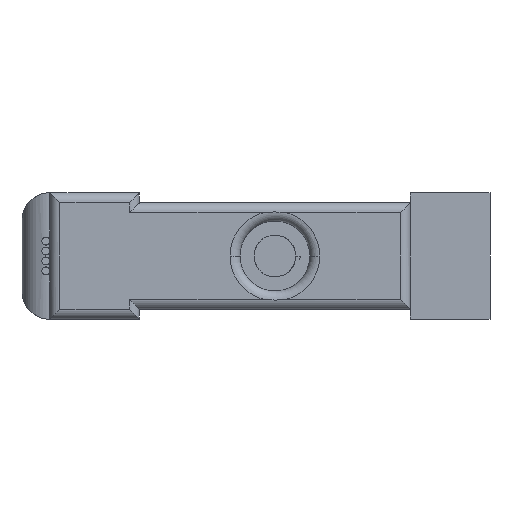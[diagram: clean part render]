
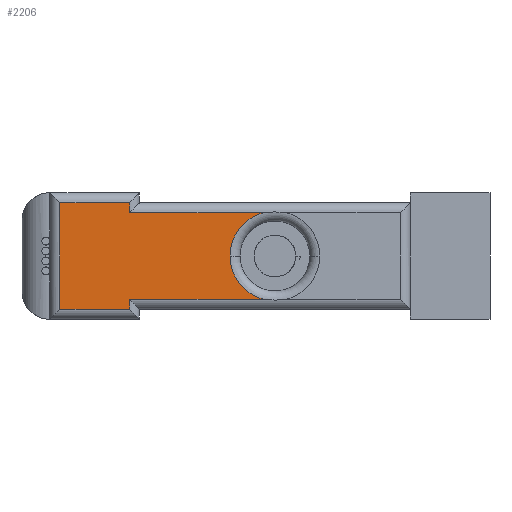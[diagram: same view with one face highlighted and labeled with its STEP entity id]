
A CAD part, front view. The second image highlights one B-rep face of the part: STEP entity #2206.
In plain terms, the highlighted planar face has unit normal (0, -1, 0).
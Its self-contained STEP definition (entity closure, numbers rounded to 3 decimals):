
#141 = CIRCLE ( 'NONE', #514, 4.5 ) ;
#161 = CARTESIAN_POINT ( 'NONE',  ( -21.6, -17.15, 0. ) ) ;
#179 = LINE ( 'NONE', #1959, #3230 ) ;
#213 = CARTESIAN_POINT ( 'NONE',  ( -14.6, -17.15, 5.35 ) ) ;
#296 = VERTEX_POINT ( 'NONE', #4025 ) ;
#437 = CARTESIAN_POINT ( 'NONE',  ( -0.5, -17.15, 4.35 ) ) ;
#498 = VECTOR ( 'NONE', #2889, 1000. ) ;
#509 = ORIENTED_EDGE ( 'NONE', *, *, #2900, .T. ) ;
#514 = AXIS2_PLACEMENT_3D ( 'NONE', #3185, #3157, #4939 ) ;
#517 = LINE ( 'NONE', #161, #4984 ) ;
#543 = CARTESIAN_POINT ( 'NONE',  ( -14.6, -17.15, -4.35 ) ) ;
#737 = LINE ( 'NONE', #1510, #4704 ) ;
#912 = CARTESIAN_POINT ( 'NONE',  ( -0.5, -17.15, 0. ) ) ;
#937 = EDGE_LOOP ( 'NONE', ( #4380, #1780, #509, #5056, #1881, #4307, #3310, #4690, #2119 ) ) ;
#995 = EDGE_CURVE ( 'NONE', #1017, #3478, #179, .T. ) ;
#999 = EDGE_CURVE ( 'NONE', #3478, #296, #2073, .T. ) ;
#1015 = CARTESIAN_POINT ( 'NONE',  ( 0., -17.15, 0. ) ) ;
#1017 = VERTEX_POINT ( 'NONE', #5690 ) ;
#1095 = LINE ( 'NONE', #5432, #498 ) ;
#1223 = AXIS2_PLACEMENT_3D ( 'NONE', #1015, #3296, #2890 ) ;
#1283 = EDGE_CURVE ( 'NONE', #5037, #4004, #3540, .T. ) ;
#1312 = DIRECTION ( 'NONE',  ( -1., 0., 0. ) ) ;
#1510 = CARTESIAN_POINT ( 'NONE',  ( -0.5, -17.15, -5.35 ) ) ;
#1605 = CARTESIAN_POINT ( 'NONE',  ( -4.5, -17.15, 0. ) ) ;
#1719 = LINE ( 'NONE', #3069, #3001 ) ;
#1780 = ORIENTED_EDGE ( 'NONE', *, *, #999, .T. ) ;
#1845 = VERTEX_POINT ( 'NONE', #4089 ) ;
#1881 = ORIENTED_EDGE ( 'NONE', *, *, #1283, .T. ) ;
#1943 = DIRECTION ( 'NONE',  ( 0., 0., -1. ) ) ;
#1959 = CARTESIAN_POINT ( 'NONE',  ( -14.6, -17.15, 0. ) ) ;
#2073 = LINE ( 'NONE', #4765, #3502 ) ;
#2119 = ORIENTED_EDGE ( 'NONE', *, *, #5563, .T. ) ;
#2163 = FACE_OUTER_BOUND ( 'NONE', #937, .T. ) ;
#2206 = ADVANCED_FACE ( 'NONE', ( #2163 ), #4860, .F. ) ;
#2431 = CARTESIAN_POINT ( 'NONE',  ( -1.152, -17.15, 4.35 ) ) ;
#2889 = DIRECTION ( 'NONE',  ( 0., 0., 1. ) ) ;
#2890 = DIRECTION ( 'NONE',  ( 1., 0., 0. ) ) ;
#2900 = EDGE_CURVE ( 'NONE', #296, #4159, #141, .T. ) ;
#2959 = DIRECTION ( 'NONE',  ( -1., 0., 0. ) ) ;
#3001 = VECTOR ( 'NONE', #2959, 1000. ) ;
#3002 = EDGE_CURVE ( 'NONE', #4004, #3724, #1095, .T. ) ;
#3069 = CARTESIAN_POINT ( 'NONE',  ( -0.5, -17.15, 5.35 ) ) ;
#3157 = DIRECTION ( 'NONE',  ( 0., 1., 0. ) ) ;
#3185 = CARTESIAN_POINT ( 'NONE',  ( 0., -17.15, 0. ) ) ;
#3230 = VECTOR ( 'NONE', #3752, 1000. ) ;
#3294 = DIRECTION ( 'NONE',  ( 1., 0., 0. ) ) ;
#3296 = DIRECTION ( 'NONE',  ( 0., 1., 0. ) ) ;
#3310 = ORIENTED_EDGE ( 'NONE', *, *, #4149, .T. ) ;
#3431 = EDGE_CURVE ( 'NONE', #4514, #1845, #517, .T. ) ;
#3478 = VERTEX_POINT ( 'NONE', #543 ) ;
#3502 = VECTOR ( 'NONE', #3950, 1000. ) ;
#3540 = LINE ( 'NONE', #437, #4093 ) ;
#3547 = DIRECTION ( 'NONE',  ( 0., 1., 0. ) ) ;
#3724 = VERTEX_POINT ( 'NONE', #213 ) ;
#3752 = DIRECTION ( 'NONE',  ( 0., 0., 1. ) ) ;
#3950 = DIRECTION ( 'NONE',  ( 1., 0., 0. ) ) ;
#4004 = VERTEX_POINT ( 'NONE', #5090 ) ;
#4025 = CARTESIAN_POINT ( 'NONE',  ( -1.152, -17.15, -4.35 ) ) ;
#4089 = CARTESIAN_POINT ( 'NONE',  ( -21.6, -17.15, -5.35 ) ) ;
#4093 = VECTOR ( 'NONE', #1312, 1000. ) ;
#4149 = EDGE_CURVE ( 'NONE', #3724, #4514, #1719, .T. ) ;
#4159 = VERTEX_POINT ( 'NONE', #1605 ) ;
#4307 = ORIENTED_EDGE ( 'NONE', *, *, #3002, .T. ) ;
#4380 = ORIENTED_EDGE ( 'NONE', *, *, #995, .T. ) ;
#4456 = DIRECTION ( 'NONE',  ( 1., 0., 0. ) ) ;
#4479 = EDGE_CURVE ( 'NONE', #4159, #5037, #4766, .T. ) ;
#4514 = VERTEX_POINT ( 'NONE', #5000 ) ;
#4621 = AXIS2_PLACEMENT_3D ( 'NONE', #912, #3547, #4456 ) ;
#4690 = ORIENTED_EDGE ( 'NONE', *, *, #3431, .T. ) ;
#4704 = VECTOR ( 'NONE', #3294, 1000. ) ;
#4765 = CARTESIAN_POINT ( 'NONE',  ( -0.5, -17.15, -4.35 ) ) ;
#4766 = CIRCLE ( 'NONE', #1223, 4.5 ) ;
#4860 = PLANE ( 'NONE',  #4621 ) ;
#4939 = DIRECTION ( 'NONE',  ( 1., 0., 0. ) ) ;
#4984 = VECTOR ( 'NONE', #1943, 1000. ) ;
#5000 = CARTESIAN_POINT ( 'NONE',  ( -21.6, -17.15, 5.35 ) ) ;
#5037 = VERTEX_POINT ( 'NONE', #2431 ) ;
#5056 = ORIENTED_EDGE ( 'NONE', *, *, #4479, .T. ) ;
#5090 = CARTESIAN_POINT ( 'NONE',  ( -14.6, -17.15, 4.35 ) ) ;
#5432 = CARTESIAN_POINT ( 'NONE',  ( -14.6, -17.15, 0. ) ) ;
#5563 = EDGE_CURVE ( 'NONE', #1845, #1017, #737, .T. ) ;
#5690 = CARTESIAN_POINT ( 'NONE',  ( -14.6, -17.15, -5.35 ) ) ;
